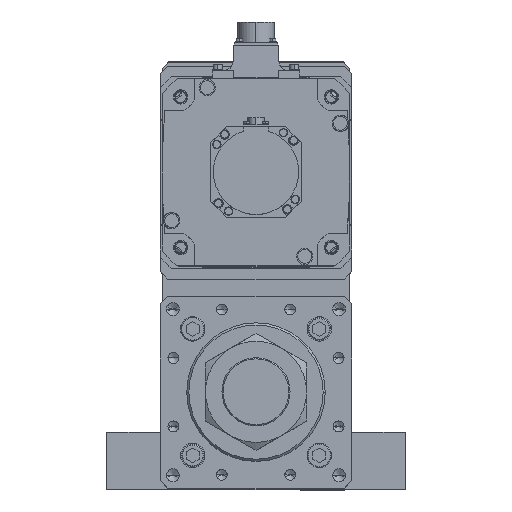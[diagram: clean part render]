
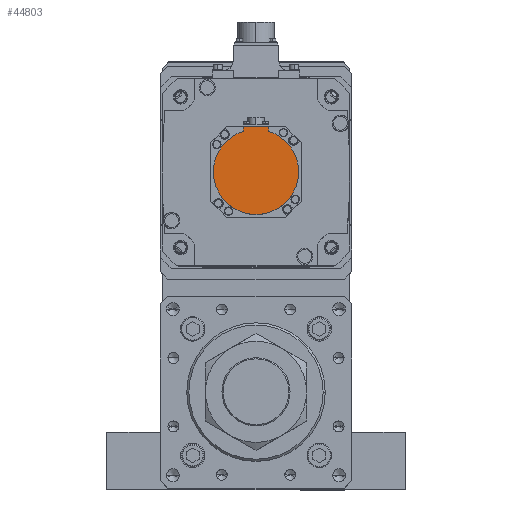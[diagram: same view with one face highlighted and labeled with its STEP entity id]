
A CAD part, top view. The second image highlights one B-rep face of the part: STEP entity #44803.
In plain terms, the highlighted planar face has unit normal (0, 0, 1) as drawn and (0, 0, -1) by its records, which use the part's own axes.
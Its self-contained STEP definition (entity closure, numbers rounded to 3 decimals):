
#4 = CARTESIAN_POINT ( 'NONE',  ( 0., -42.5, -178.5 ) ) ;
#1352 = CARTESIAN_POINT ( 'NONE',  ( 12., -42.5, -178.5 ) ) ;
#1382 = DIRECTION ( 'NONE',  ( 0., 1., 0. ) ) ;
#2242 = CARTESIAN_POINT ( 'NONE',  ( 0., 0., -178.5 ) ) ;
#4205 = VERTEX_POINT ( 'NONE', #42316 ) ;
#4581 = AXIS2_PLACEMENT_3D ( 'NONE', #2242, #6582, #43424 ) ;
#5060 = CARTESIAN_POINT ( 'NONE',  ( -12., -38.158, -178.5 ) ) ;
#6582 = DIRECTION ( 'NONE',  ( 0., 0., 1. ) ) ;
#7100 = EDGE_CURVE ( 'NONE', #47980, #20703, #36812, .T. ) ;
#7438 = EDGE_CURVE ( 'NONE', #20703, #46034, #14072, .T. ) ;
#7440 = PLANE ( 'NONE',  #26916 ) ;
#8732 = DIRECTION ( 'NONE',  ( -1., 0., 0. ) ) ;
#9435 = CARTESIAN_POINT ( 'NONE',  ( 12., -38.158, -178.5 ) ) ;
#10036 = FACE_OUTER_BOUND ( 'NONE', #24215, .T. ) ;
#11260 = DIRECTION ( 'NONE',  ( 0., 0., 1. ) ) ;
#11446 = EDGE_CURVE ( 'NONE', #51666, #4205, #17852, .T. ) ;
#11485 = ORIENTED_EDGE ( 'NONE', *, *, #39334, .F. ) ;
#12223 = DIRECTION ( 'NONE',  ( 0., 0., 1. ) ) ;
#14072 = LINE ( 'NONE', #20150, #23830 ) ;
#15966 = CARTESIAN_POINT ( 'NONE',  ( -40., 0., -178.5 ) ) ;
#16366 = DIRECTION ( 'NONE',  ( 1., 0., 0. ) ) ;
#17852 = CIRCLE ( 'NONE', #46895, 40. ) ;
#19250 = EDGE_CURVE ( 'NONE', #47980, #51666, #50878, .T. ) ;
#20150 = CARTESIAN_POINT ( 'NONE',  ( -12., -40.329, -178.5 ) ) ;
#20703 = VERTEX_POINT ( 'NONE', #28977 ) ;
#22269 = CARTESIAN_POINT ( 'NONE',  ( 12., -1.249, -178.5 ) ) ;
#22589 = VECTOR ( 'NONE', #8732, 1000. ) ;
#23830 = VECTOR ( 'NONE', #32104, 1000. ) ;
#24215 = EDGE_LOOP ( 'NONE', ( #29465, #50941, #11485, #44339, #43421, #36662 ) ) ;
#25186 = DIRECTION ( 'NONE',  ( 0., 0., 1. ) ) ;
#26916 = AXIS2_PLACEMENT_3D ( 'NONE', #44969, #11260, #31946 ) ;
#28977 = CARTESIAN_POINT ( 'NONE',  ( -12., -42.5, -178.5 ) ) ;
#29465 = ORIENTED_EDGE ( 'NONE', *, *, #7438, .T. ) ;
#30120 = VERTEX_POINT ( 'NONE', #15966 ) ;
#31352 = EDGE_CURVE ( 'NONE', #30120, #46034, #36082, .T. ) ;
#31946 = DIRECTION ( 'NONE',  ( 1., 0., 0. ) ) ;
#32104 = DIRECTION ( 'NONE',  ( 0., 1., 0. ) ) ;
#33071 = CARTESIAN_POINT ( 'NONE',  ( 0., 0., -178.5 ) ) ;
#33342 = DIRECTION ( 'NONE',  ( 1., 0., 0. ) ) ;
#33871 = CARTESIAN_POINT ( 'NONE',  ( 0., 0., -178.5 ) ) ;
#36082 = CIRCLE ( 'NONE', #49390, 40. ) ;
#36662 = ORIENTED_EDGE ( 'NONE', *, *, #7100, .T. ) ;
#36812 = LINE ( 'NONE', #4, #22589 ) ;
#38577 = VECTOR ( 'NONE', #1382, 1000. ) ;
#39334 = EDGE_CURVE ( 'NONE', #4205, #30120, #52142, .T. ) ;
#42316 = CARTESIAN_POINT ( 'NONE',  ( 40., 0., -178.5 ) ) ;
#43421 = ORIENTED_EDGE ( 'NONE', *, *, #19250, .F. ) ;
#43424 = DIRECTION ( 'NONE',  ( 1., 0., 0. ) ) ;
#44339 = ORIENTED_EDGE ( 'NONE', *, *, #11446, .F. ) ;
#44803 = ADVANCED_FACE ( 'NONE', ( #10036 ), #7440, .F. ) ;
#44969 = CARTESIAN_POINT ( 'NONE',  ( 0., -1.249, -178.5 ) ) ;
#46034 = VERTEX_POINT ( 'NONE', #5060 ) ;
#46895 = AXIS2_PLACEMENT_3D ( 'NONE', #33871, #25186, #33342 ) ;
#47980 = VERTEX_POINT ( 'NONE', #1352 ) ;
#49390 = AXIS2_PLACEMENT_3D ( 'NONE', #33071, #12223, #16366 ) ;
#50878 = LINE ( 'NONE', #22269, #38577 ) ;
#50941 = ORIENTED_EDGE ( 'NONE', *, *, #31352, .F. ) ;
#51666 = VERTEX_POINT ( 'NONE', #9435 ) ;
#52142 = CIRCLE ( 'NONE', #4581, 40. ) ;
